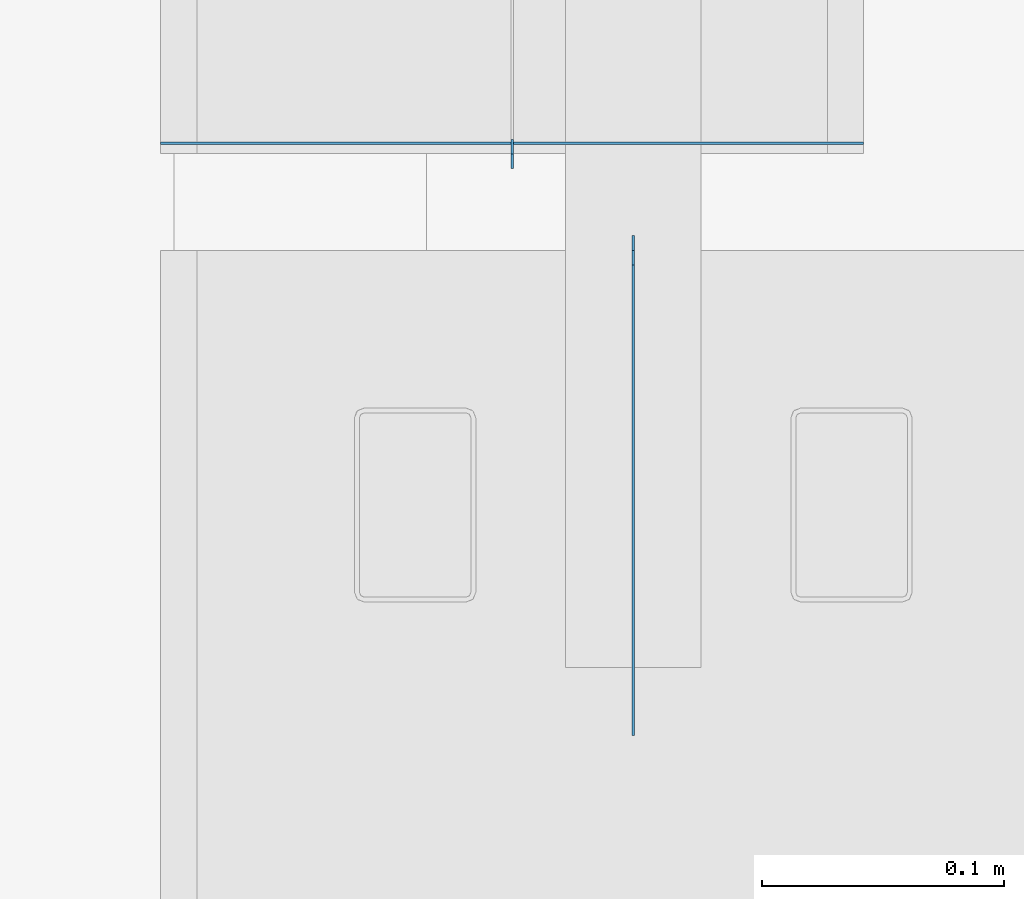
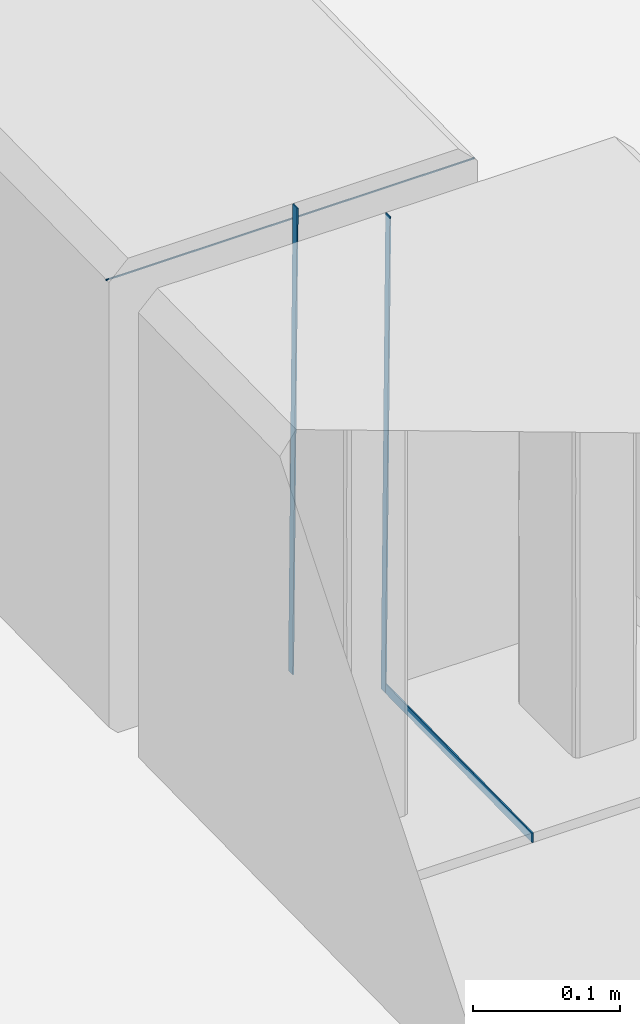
# One storey, part 41 of 186: 4 beams.
"""IFC4X3_ADD2 building model written with IfcOpenShell, lengths in millimetres."""

from ifc_helpers import new_model, si_unit, direction, frame, frame_2d, origin_with_axes, place, context, subcontext, project, spatial, rectangle, extrude, material, element, save


model = new_model("IFC4X3_ADD2")

# Units and contexts
model_context = context("Model", 3, precision=1e-05, world=origin_with_axes(), true_north=direction((0.0, 1.0)))
body_context = subcontext(model_context, "Body", "Model", "MODEL_VIEW")
ifc_project = project(units=[si_unit("LENGTHUNIT", "METRE", prefix="MILLI"), si_unit("AREAUNIT", "SQUARE_METRE"), si_unit("VOLUMEUNIT", "CUBIC_METRE"), si_unit("PLANEANGLEUNIT", "RADIAN"), si_unit("TIMEUNIT", "SECOND"), si_unit("MASSUNIT", "GRAM")], contexts=[model_context])

# Site, building, storey
site_placement = place(None, origin_with_axes())
site = spatial("IfcSite", under=ifc_project, at=site_placement, Name="Site", CompositionType="ELEMENT")
building_placement = place(site_placement, origin_with_axes())
building = spatial("IfcBuilding", under=site, at=building_placement, Name="IFC Building Story")
storey_placement = place(building_placement, frame((0.0, 0.0, 4370.0), z_axis=(0.0, 0.0, 1.0), x_axis=(1.0, 0.0, 0.0)))
storey = spatial("IfcBuildingStorey", under=building, at=storey_placement, Name="ETAGE 10 (1)", Elevation=4370.0)

# Beams
ifc_material_1 = material(Name="STEEL/Accessory_invisible 261")
beam_1_placement = place(storey_placement, frame((33351.6886988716, 21639.820279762, 3082.233196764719), z_axis=(-1.0, 0.0, 0.0), x_axis=(0.0, -0.01553280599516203, 0.9998793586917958)))
element("IfcBeam", 1, at=beam_1_placement, inside=storey, material=ifc_material_1, Name="BEK4", ObjectType="6*1", context=body_context, shape_type="SweptSolid", body=[
    extrude(rectangle(XDim=392.000000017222, YDim=6.0, at=frame_2d((0.0, 5.95523630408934e-12), x_axis=(1.0, 0.0))), origin_with_axes(), (0.0, 0.0, 1.0), 1.0),
])
beam_2_placement = place(storey_placement, frame((33400.6886992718, 21500.0441974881, 2880.008532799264), z_axis=(1.0, 0.0, 0.0), x_axis=(0.0, -0.01553751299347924, 0.9998792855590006)))
element("IfcBeam", 2, at=beam_2_placement, inside=storey, material=ifc_material_1, Name="BEK4", ObjectType="8*1 2", context=body_context, shape_type="SweptSolid", body=[
    extrude(rectangle(XDim=8.00000000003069, YDim=200.238018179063, at=frame_2d((0.0, 5.95523630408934e-12), x_axis=(1.0, 0.0))), origin_with_axes(), (0.0, 0.0, 1.0), 1.0),
])
beam_3_placement = place(storey_placement, frame((33401.6886988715, 21600.1056235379, 3077.587074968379), z_axis=(-1.0, 0.0, 0.0), x_axis=(0.0, -0.01553280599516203, 0.9998793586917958)))
element("IfcBeam", 3, at=beam_3_placement, inside=storey, material=ifc_material_1, Name="BEK4", ObjectType="6*1 3", context=body_context, shape_type="SweptSolid", body=[
    extrude(rectangle(XDim=400.000000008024, YDim=6.00000000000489, at=frame_2d((0.0, 5.95523630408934e-12), x_axis=(1.0, 0.0))), origin_with_axes(), (0.0, 0.0, 1.0), 1.0),
])
ifc_material_2 = material(Name="STEEL/Accessory_invisible")
beam_4_placement = place(storey_placement, frame((33496.08869887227, 21644.1444014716, 3262.822075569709), z_axis=(-1.0, 0.0, 0.0), x_axis=(0.0, 1.0, 0.0)))
element("IfcBeam", 4, at=beam_4_placement, inside=storey, material=ifc_material_2, Name="ZW3", ObjectType="1*1 3", context=body_context, shape_type="SweptSolid", body=[
    extrude(rectangle(XDim=0.9999999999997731, YDim=0.9999999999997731, at=frame_2d((0.0, 5.95523630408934e-12), x_axis=(1.0, 0.0))), origin_with_axes(), (0.0, 0.0, 1.0), 289.9000000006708),
])

save(model, "model.ifc")
